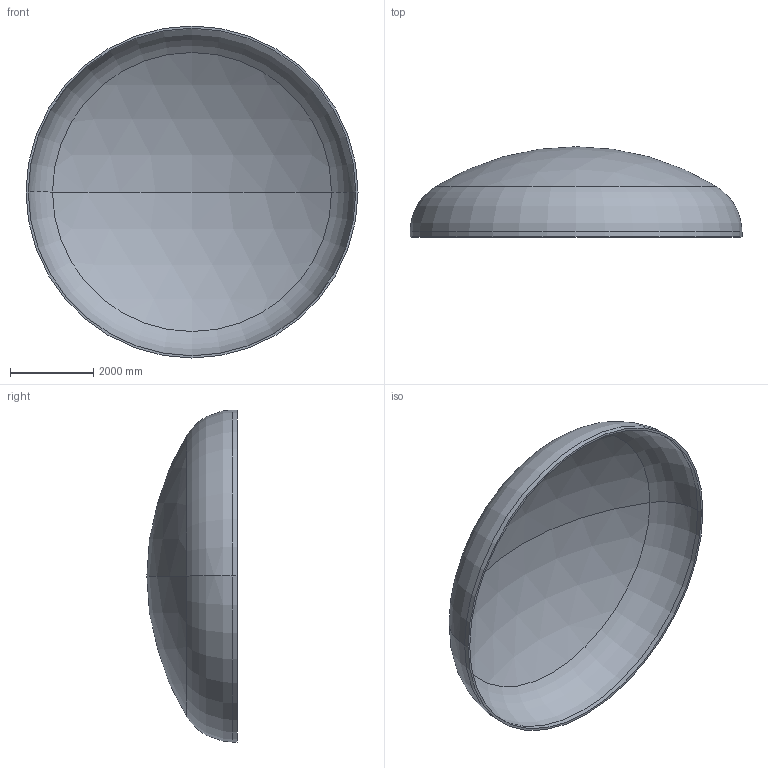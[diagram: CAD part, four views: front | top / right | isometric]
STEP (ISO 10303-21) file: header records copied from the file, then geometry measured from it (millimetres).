
FILE_DESCRIPTION (( 'STEP AP203' ), '1' );
FILE_NAME ('DIN 28013 Korbbogenform_-_Boden DIN 28013 - 8000 x 120 - I - s=54.step', '2016-07-04T11:02:35', ( '' ), ( '' ), 'SwSTEP 2.0', 'SolidWorks 2013', '' );
FILE_SCHEMA (( 'CONFIG_CONTROL_DESIGN' ));
Length unit declared in the file: millimetre
Products named in the file (1): DIN 28013 Korbbogenform_-_Boden DIN 28013 - 8000 x 120 - I - s=54
Bounding box: 8000 x 2174.88 x 8000 mm (x, y, z)
Volume: 3886550138.5 mm3; surface area: 145300359.2 mm2
Topology: 1 solids, 1 shells, 13 faces, 24 edges, 14 vertices
Faces by surface type: torus 4, cylinder 4, sphere 4, plane 1
Entity records: 407 total; most frequent: DIRECTION 72, CARTESIAN_POINT 52, ORIENTED_EDGE 48, AXIS2_PLACEMENT_3D 34, EDGE_CURVE 24, CIRCLE 20, EDGE_LOOP 14, VERTEX_POINT 14
